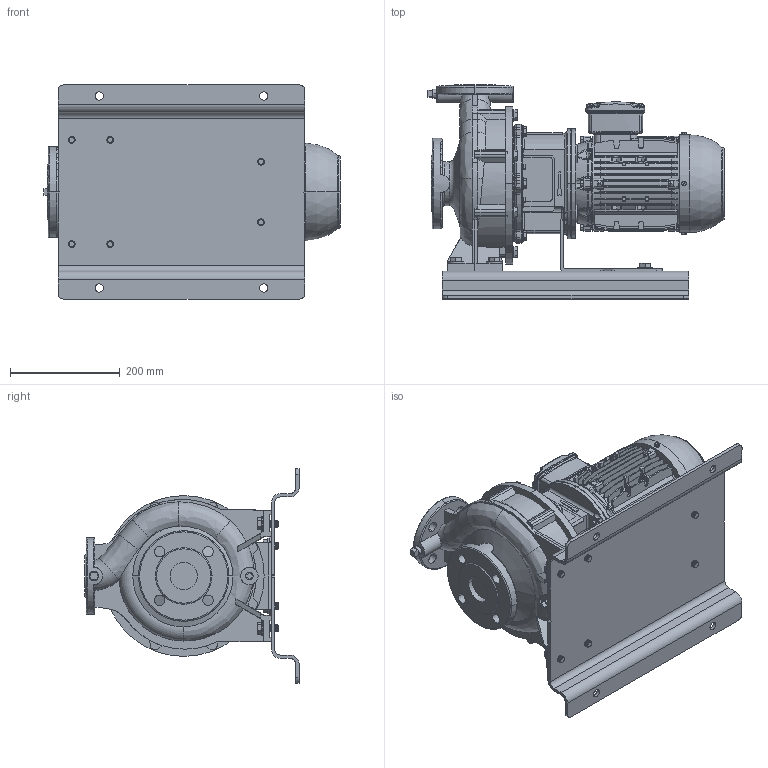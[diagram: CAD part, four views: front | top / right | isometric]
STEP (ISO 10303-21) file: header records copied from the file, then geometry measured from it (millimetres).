
FILE_DESCRIPTION (( 'STEP AP214' ), '1' );
FILE_NAME ('GSD4 32-200_1.1 & 1.5_(90SL)_W21_BP.STEP', '2024-10-04T01:42:17', ( '' ), ( '' ), 'SwSTEP 2.0', 'SolidWorks 2019', '' );
FILE_SCHEMA (( 'AUTOMOTIVE_DESIGN' ));
Length unit declared in the file: millimetre
Products named in the file (8): GSD4 32-200_1.1 & 1.5_(90SL)_W21_BP; 32-200-90S_L_______; N3S6 GSDA-361 F1-1832901-00; 90S_L ALIE3_W21T_B5; Parametric Flat Washer_M12; CGSD1-4153; Parametric bolt_SFT-A295B; Parametric bolt_SFT-A299B
Assembly tree (16 placements, depth 2):
  GSD4 32-200_1.1 & 1.5_(90SL)_W21_BP
    32-200-90S_L_______
    90S_L ALIE3_W21T_B5
    N3S6 GSDA-361 F1-1832901-00
    CGSD1-4153
    Parametric bolt_SFT-A299B  x4
    Parametric bolt_SFT-A295B  x2
    Parametric Flat Washer_M12  x6
Bounding box: 539.65 x 390 x 390 mm (x, y, z)
Volume: 14889284.5 mm3; surface area: 1684301.6 mm2
Topology: 25 solids, 29 shells, 3883 faces, 10204 edges, 6563 vertices
Faces by surface type: plane 2015, cylinder 1088, torus 302, bspline 255, cone 201, sphere 22
Entity records: 184735 total; most frequent: CARTESIAN_POINT 96739, ORIENTED_EDGE 19134, DIRECTION 17018, EDGE_CURVE 9567, VERTEX_POINT 6178, AXIS2_PLACEMENT_3D 5749, LINE 5520, VECTOR 5520
